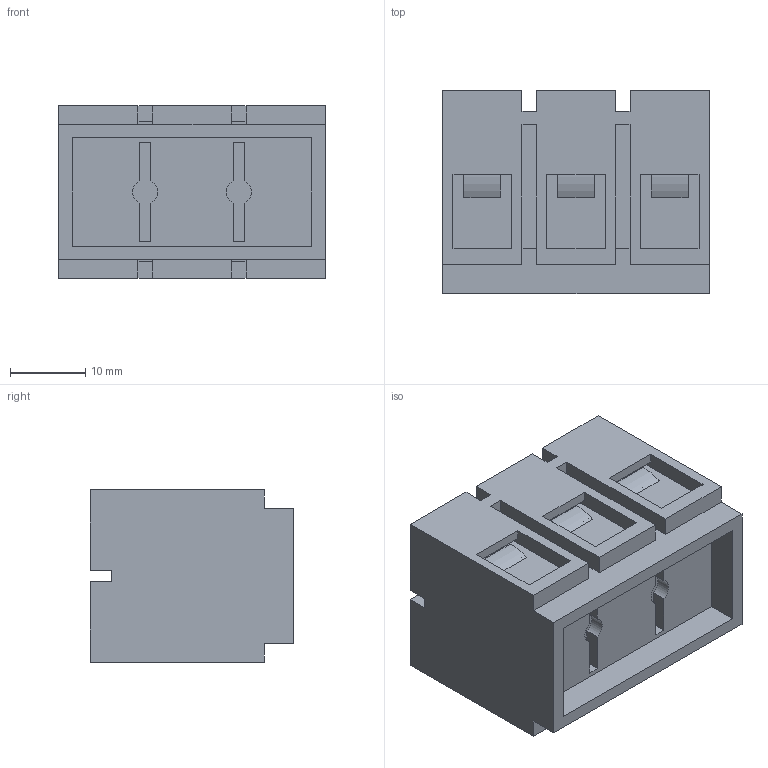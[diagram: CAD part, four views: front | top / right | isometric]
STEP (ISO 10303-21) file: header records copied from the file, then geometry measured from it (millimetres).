
FILE_DESCRIPTION((''),'2;1');
FILE_NAME('3','2019-06-03T',('zhenbing.lai'),(''),'CREO PARAMETRIC BY PTC INC, 2016260','CREO PARAMETRIC BY PTC INC, 2016260','');
FILE_SCHEMA(('CONFIG_CONTROL_DESIGN'));
Length unit declared in the file: millimetre
Products named in the file (1): 3
Bounding box: 35.5 x 27.1 x 23 mm (x, y, z)
Volume: 17346.7 mm3; surface area: 7694.9 mm2
Topology: 1 solids, 1 shells, 409 faces, 1112 edges, 742 vertices
Faces by surface type: plane 277, cylinder 97, torus 20, bspline 15
Entity records: 13882 total; most frequent: CARTESIAN_POINT 3651, ORIENTED_EDGE 2224, DIRECTION 1946, EDGE_CURVE 1112, VERTEX_POINT 742, VECTOR 684, LINE 684, AXIS2_PLACEMENT_3D 631
